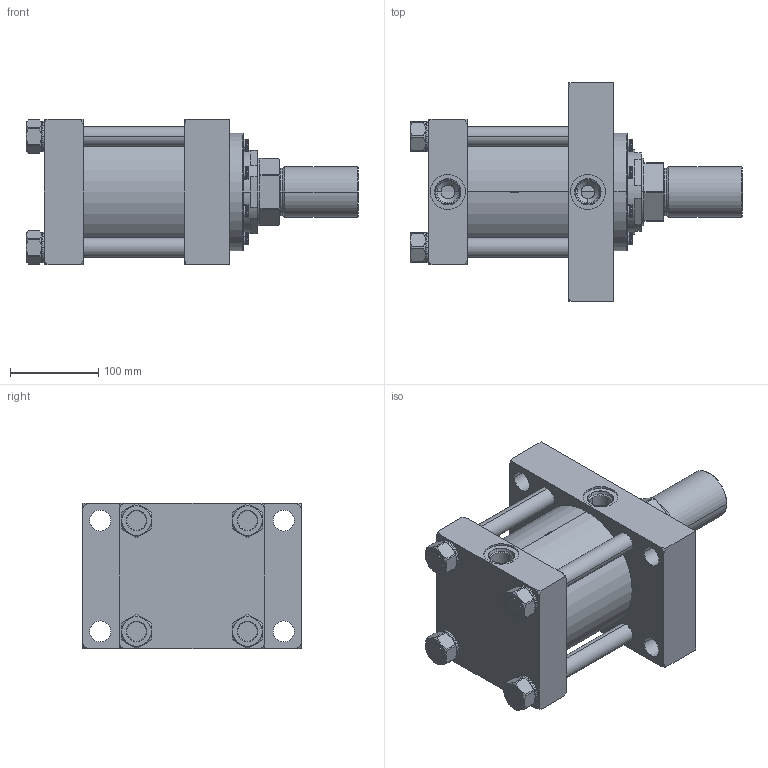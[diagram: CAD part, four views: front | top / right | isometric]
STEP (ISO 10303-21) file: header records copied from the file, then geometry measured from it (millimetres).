
FILE_DESCRIPTION (( 'STEP AP214' ), '1' );
FILE_NAME ('5.00JJ2HHNAT144A2.000.step', '2026-03-26T21:18:53', ( '' ), ( '' ), 'SwSTEP 2.0', 'SolidWorks 2023', '' );
FILE_SCHEMA (( 'AUTOMOTIVE_DESIGN' ));
Length unit declared in the file: inch
Products named in the file (1): 5.00JJ2HHNAT144A2.000
Bounding box: 376.24 x 247.65 x 165.1 mm (x, y, z)
Volume: 5370163.5 mm3; surface area: 662445.2 mm2
Topology: 40 solids, 40 shells, 1838 faces, 4869 edges, 3122 vertices
Faces by surface type: plane 818, cylinder 753, cone 229, bspline 30, torus 8
Entity records: 84681 total; most frequent: CARTESIAN_POINT 15734, ORIENTED_EDGE 9658, DIRECTION 9095, EDGE_CURVE 4829, AXIS2_PLACEMENT_3D 3521, VERTEX_POINT 3122, LINE 2053, VECTOR 2053
